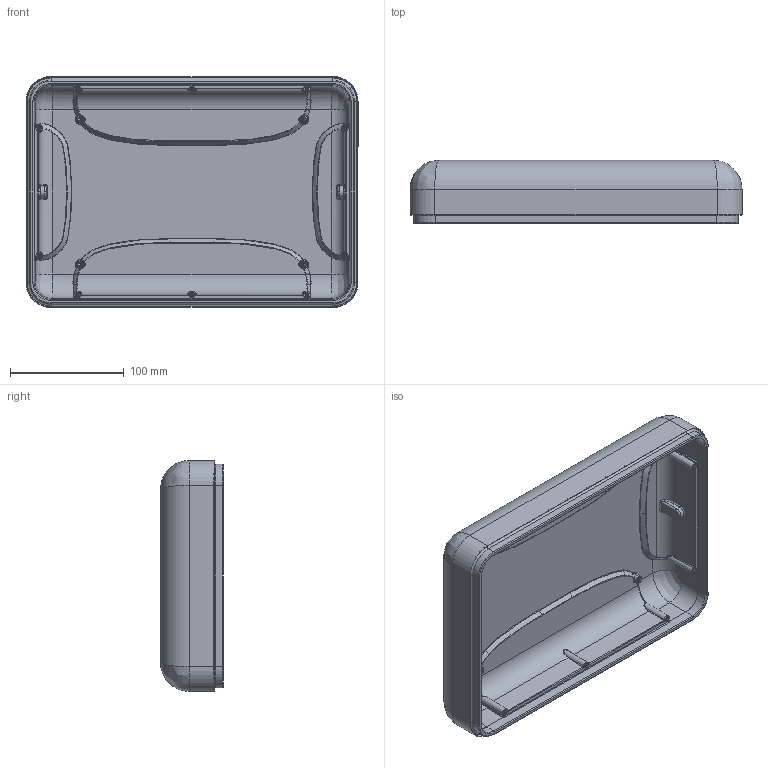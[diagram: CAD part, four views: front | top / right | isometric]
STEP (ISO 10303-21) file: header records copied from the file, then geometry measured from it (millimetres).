
FILE_DESCRIPTION (( 'STEP AP203' ), '1' );
FILE_NAME ('T20_TOP_INNER SURFACES.STEP', '2023-06-19T21:42:08', ( '' ), ( '' ), 'SwSTEP 2.0', 'SolidWorks 2022', '' );
FILE_SCHEMA (( 'CONFIG_CONTROL_DESIGN' ));
Length unit declared in the file: inch
Products named in the file (1): T20_TOP_INNER SURFACES
Bounding box: 291.98 x 55.37 x 203.08 mm (x, y, z)
Volume: 812289.3 mm3; surface area: 201358.9 mm2
Topology: 1 solids, 1 shells, 847 faces, 2027 edges, 1219 vertices
Faces by surface type: bspline 325, plane 234, torus 123, cylinder 78, cone 67, sphere 20
Entity records: 46526 total; most frequent: CARTESIAN_POINT 29140, ORIENTED_EDGE 4046, DIRECTION 2973, EDGE_CURVE 2023, VERTEX_POINT 1219, AXIS2_PLACEMENT_3D 1128, EDGE_LOOP 888, ADVANCED_FACE 847
